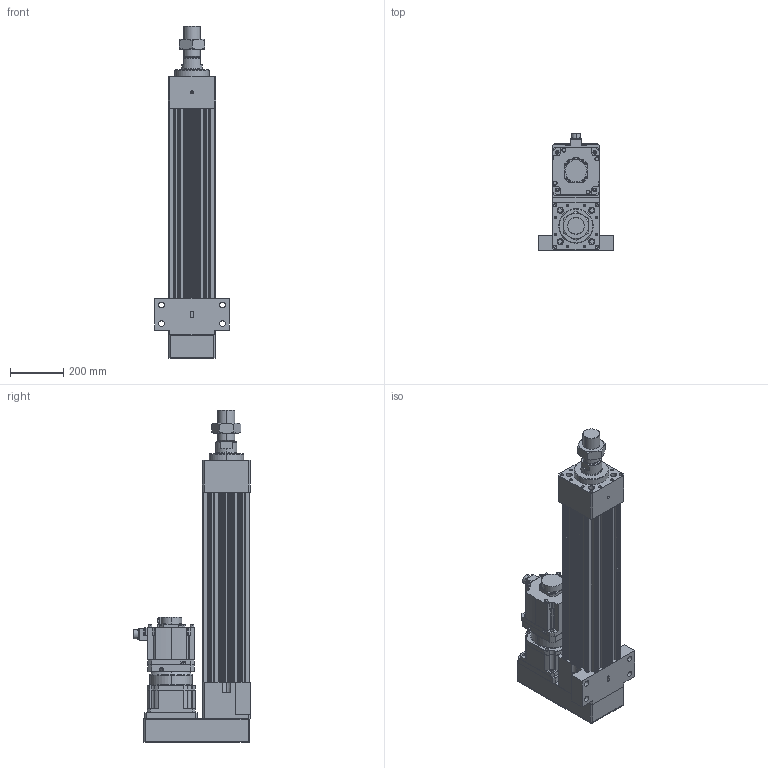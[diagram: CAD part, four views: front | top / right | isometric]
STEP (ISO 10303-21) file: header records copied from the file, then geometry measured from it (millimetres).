
FILE_DESCRIPTION (( 'STEP AP203' ), '1' );
FILE_NAME ('HES180HS-P400-W050G00-M-FFC.STEP', '2023-02-01T07:19:30', ( 'tms' ), ( '' ), 'SwSTEP 2.0', 'SolidWorks 2013', '' );
FILE_SCHEMA (( 'CONFIG_CONTROL_DESIGN' ));
Length unit declared in the file: millimetre
Products named in the file (9): HES180HS-P400-W050G00-M-FFC; P0403600401; M64X2.0P; HES180 ROD M ST400; AB1801; AB180-003[HG-SR702B]; HES180-P400-G180-FFC; HG-SR502; P1301600001
Assembly tree (8 placements, depth 3):
  HES180HS-P400-W050G00-M-FFC
    HES180-P400-G180-FFC
    HES180 ROD M ST400
    M64X2.0P
    AB180-003[HG-SR702B]
      AB1801
      P1301600001
      P0403600401
    HG-SR502
Bounding box: 280 x 438.85 x 1252 mm (x, y, z)
Volume: 28424128 mm3; surface area: 2454356.4 mm2
Topology: 4 solids, 19 shells, 1474 faces, 3821 edges, 2463 vertices
Faces by surface type: cylinder 686, plane 553, cone 168, bspline 63, torus 4
Entity records: 53682 total; most frequent: CARTESIAN_POINT 16162, DIRECTION 7905, ORIENTED_EDGE 7498, EDGE_CURVE 3773, AXIS2_PLACEMENT_3D 2986, VERTEX_POINT 2463, LINE 1933, VECTOR 1933
